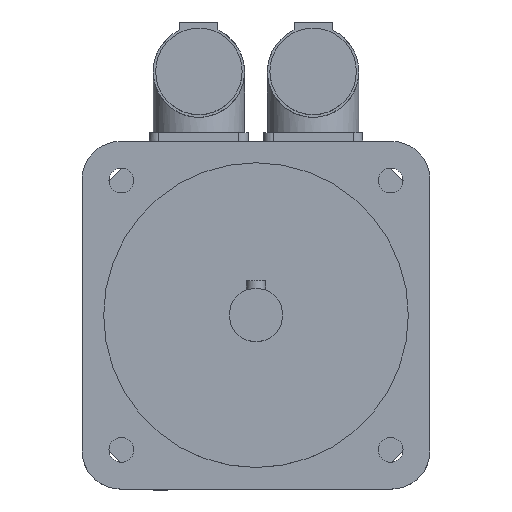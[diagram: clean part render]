
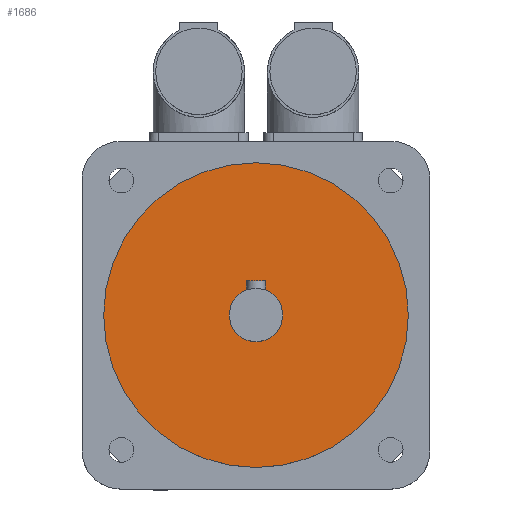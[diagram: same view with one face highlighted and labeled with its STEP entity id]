
A CAD part, top view. The second image highlights one B-rep face of the part: STEP entity #1686.
In plain terms, the highlighted planar face has unit normal (0, 0, 1).
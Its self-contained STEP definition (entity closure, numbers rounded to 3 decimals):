
#28=FACE_BOUND('',#305,.T.);
#53=CIRCLE('',#1788,7.);
#54=CIRCLE('',#1791,40.);
#202=FACE_OUTER_BOUND('',#304,.T.);
#304=EDGE_LOOP('',(#1158));
#305=EDGE_LOOP('',(#1159));
#718=VERTEX_POINT('',#2569);
#719=VERTEX_POINT('',#2573);
#892=EDGE_CURVE('',#718,#718,#53,.T.);
#893=EDGE_CURVE('',#719,#719,#54,.T.);
#1158=ORIENTED_EDGE('',*,*,#893,.T.);
#1159=ORIENTED_EDGE('',*,*,#892,.T.);
#1633=PLANE('',#1793);
#1686=ADVANCED_FACE('',(#202,#28),#1633,.T.);
#1788=AXIS2_PLACEMENT_3D('',#2570,#2000,#2001);
#1791=AXIS2_PLACEMENT_3D('',#2574,#2006,#2007);
#1793=AXIS2_PLACEMENT_3D('',#2577,#2010,#2011);
#2000=DIRECTION('center_axis',(0.,0.,-1.));
#2001=DIRECTION('ref_axis',(-1.,0.,0.));
#2006=DIRECTION('center_axis',(0.,0.,1.));
#2007=DIRECTION('ref_axis',(-1.,0.,0.));
#2010=DIRECTION('center_axis',(0.,0.,1.));
#2011=DIRECTION('ref_axis',(1.,0.,0.));
#2569=CARTESIAN_POINT('',(7.,0.,126.));
#2570=CARTESIAN_POINT('Origin',(0.,0.,126.));
#2573=CARTESIAN_POINT('',(40.,0.,126.));
#2574=CARTESIAN_POINT('Origin',(0.,0.,126.));
#2577=CARTESIAN_POINT('Origin',(0.,0.,
126.));
